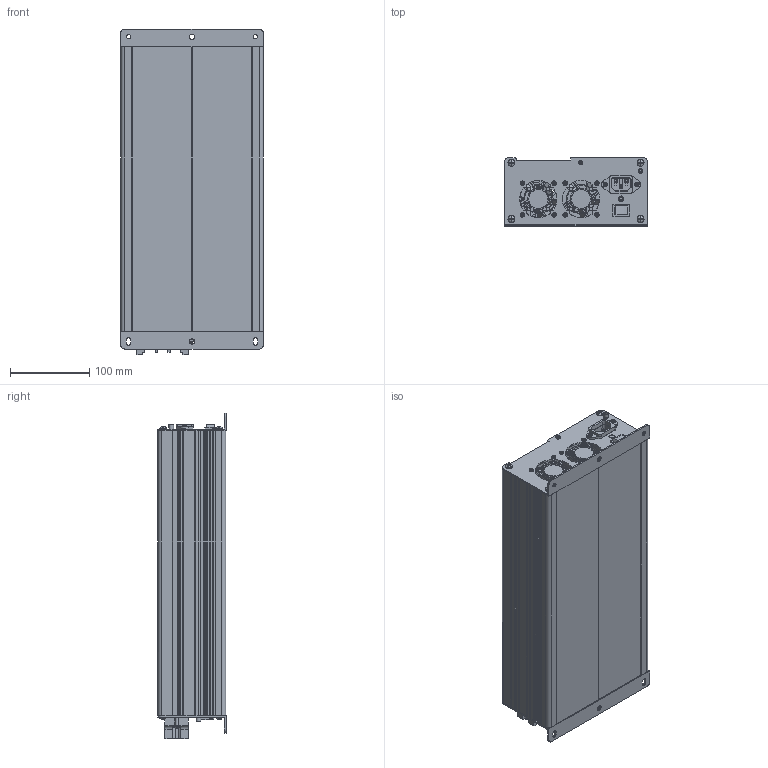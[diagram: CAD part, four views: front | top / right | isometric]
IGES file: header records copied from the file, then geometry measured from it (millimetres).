
Global section: file name: 3D_TC-1500W; native system: Autodesk Inventor 2021; preprocessor: unknown; author: eunsol jang; date: 20221209.101839; units: inch
Bounding box: 180 x 86 x 411.3 mm (x, y, z)
Volume: 1250573.6 mm3; surface area: 743002.4 mm2
Topology: 10 solids, 28 shells, 3684 faces, 10198 edges, 6734 vertices
Faces by surface type: bspline 3684
